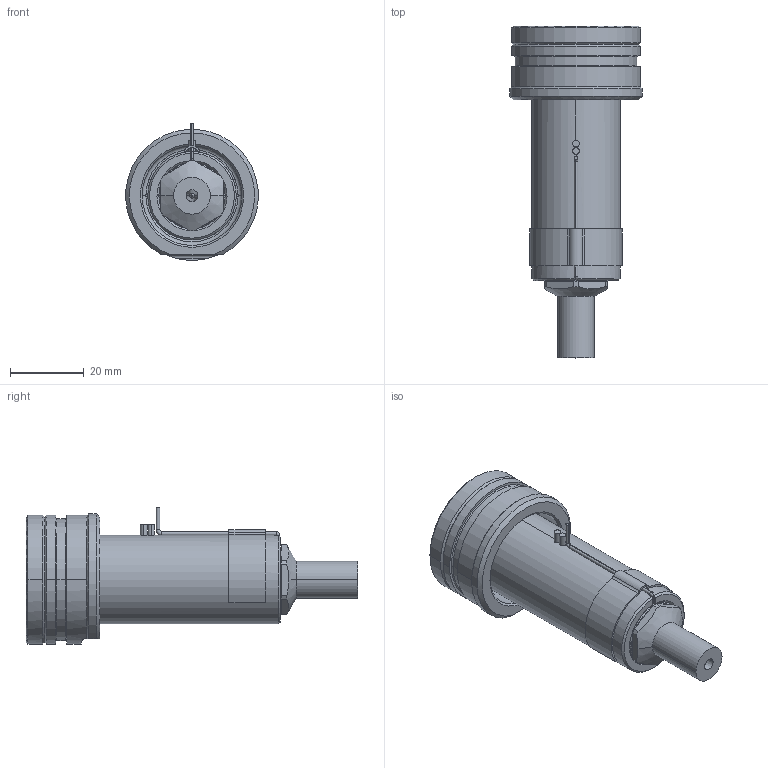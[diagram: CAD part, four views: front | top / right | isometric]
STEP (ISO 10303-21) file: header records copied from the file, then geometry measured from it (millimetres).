
FILE_DESCRIPTION((''),'2;1');
FILE_NAME('EO06_PG-FBE_STD_060_SW','2024-02-19T11:49:06',('sundharh'),(''),'CREO PARAMETRIC BY PTC INC, 2023154','CREO PARAMETRIC BY PTC INC, 2023154','');
FILE_SCHEMA(('CONFIG_CONTROL_DESIGN'));
Length unit declared in the file: millimetre
Products named in the file (1): EO06_PG-FBE_STD_060_SW
Bounding box: 35.93 x 90 x 37 mm (x, y, z)
Volume: 39853 mm3; surface area: 13667.6 mm2
Topology: 2 solids, 2 shells, 212 faces, 568 edges, 348 vertices
Faces by surface type: cylinder 85, plane 55, cone 42, torus 21, bspline 6, sphere 3
Entity records: 7545 total; most frequent: CARTESIAN_POINT 2157, DIRECTION 1189, ORIENTED_EDGE 1120, EDGE_CURVE 560, AXIS2_PLACEMENT_3D 500, VERTEX_POINT 348, CIRCLE 294, EDGE_LOOP 228
